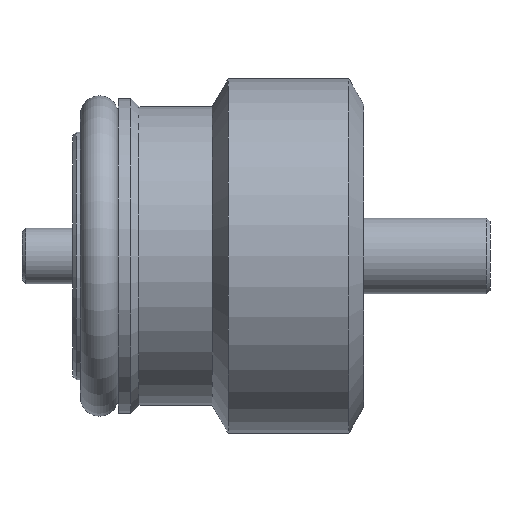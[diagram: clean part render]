
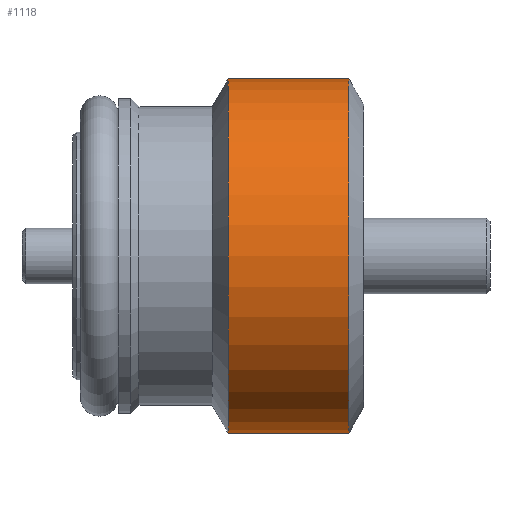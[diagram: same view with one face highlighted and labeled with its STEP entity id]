
A CAD part, front view. The second image highlights one B-rep face of the part: STEP entity #1118.
In plain terms, the highlighted cylindrical face has radius 7 mm (diameter 14 mm), a partial arc.
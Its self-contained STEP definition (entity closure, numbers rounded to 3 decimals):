
#253 = LINE ( 'NONE', #824, #1776 ) ;
#292 = EDGE_LOOP ( 'NONE', ( #947, #1565, #1319, #520 ) ) ;
#344 = VERTEX_POINT ( 'NONE', #1715 ) ;
#374 = CIRCLE ( 'NONE', #1171, 7. ) ;
#461 = EDGE_CURVE ( 'NONE', #344, #1408, #253, .T. ) ;
#512 = AXIS2_PLACEMENT_3D ( 'NONE', #1458, #586, #1602 ) ;
#520 = ORIENTED_EDGE ( 'NONE', *, *, #1904, .T. ) ;
#548 = DIRECTION ( 'NONE',  ( 1., 0., 0. ) ) ;
#560 = FACE_OUTER_BOUND ( 'NONE', #292, .T. ) ;
#586 = DIRECTION ( 'NONE',  ( -1., 0., 0. ) ) ;
#665 = AXIS2_PLACEMENT_3D ( 'NONE', #1504, #1238, #946 ) ;
#674 = DIRECTION ( 'NONE',  ( 1., 0., 0. ) ) ;
#765 = CYLINDRICAL_SURFACE ( 'NONE', #665, 7. ) ;
#812 = DIRECTION ( 'NONE',  ( 1., 0., 0. ) ) ;
#824 = CARTESIAN_POINT ( 'NONE',  ( 0., 0., -7. ) ) ;
#833 = CARTESIAN_POINT ( 'NONE',  ( -5.35, 0., 7. ) ) ;
#903 = CARTESIAN_POINT ( 'NONE',  ( -5.35, 0., 0. ) ) ;
#946 = DIRECTION ( 'NONE',  ( 0., 0., -1. ) ) ;
#947 = ORIENTED_EDGE ( 'NONE', *, *, #1681, .F. ) ;
#1011 = LINE ( 'NONE', #1842, #1298 ) ;
#1096 = DIRECTION ( 'NONE',  ( 0., 0., -1. ) ) ;
#1118 = ADVANCED_FACE ( 'NONE', ( #560 ), #765, .T. ) ;
#1171 = AXIS2_PLACEMENT_3D ( 'NONE', #903, #548, #1096 ) ;
#1208 = EDGE_CURVE ( 'NONE', #1747, #344, #374, .T. ) ;
#1238 = DIRECTION ( 'NONE',  ( 1., 0., 0. ) ) ;
#1298 = VECTOR ( 'NONE', #812, 1000. ) ;
#1319 = ORIENTED_EDGE ( 'NONE', *, *, #461, .T. ) ;
#1408 = VERTEX_POINT ( 'NONE', #1616 ) ;
#1458 = CARTESIAN_POINT ( 'NONE',  ( -0.577, 0., 0. ) ) ;
#1504 = CARTESIAN_POINT ( 'NONE',  ( 0., 0., 0. ) ) ;
#1565 = ORIENTED_EDGE ( 'NONE', *, *, #1208, .T. ) ;
#1602 = DIRECTION ( 'NONE',  ( 0., 0., -1. ) ) ;
#1606 = CIRCLE ( 'NONE', #512, 7. ) ;
#1616 = CARTESIAN_POINT ( 'NONE',  ( -0.577, 0., -7. ) ) ;
#1681 = EDGE_CURVE ( 'NONE', #1747, #1788, #1011, .T. ) ;
#1715 = CARTESIAN_POINT ( 'NONE',  ( -5.35, 0., -7. ) ) ;
#1747 = VERTEX_POINT ( 'NONE', #833 ) ;
#1776 = VECTOR ( 'NONE', #674, 1000. ) ;
#1788 = VERTEX_POINT ( 'NONE', #1873 ) ;
#1842 = CARTESIAN_POINT ( 'NONE',  ( 0., 0., 7. ) ) ;
#1873 = CARTESIAN_POINT ( 'NONE',  ( -0.577, 0., 7. ) ) ;
#1904 = EDGE_CURVE ( 'NONE', #1408, #1788, #1606, .T. ) ;
